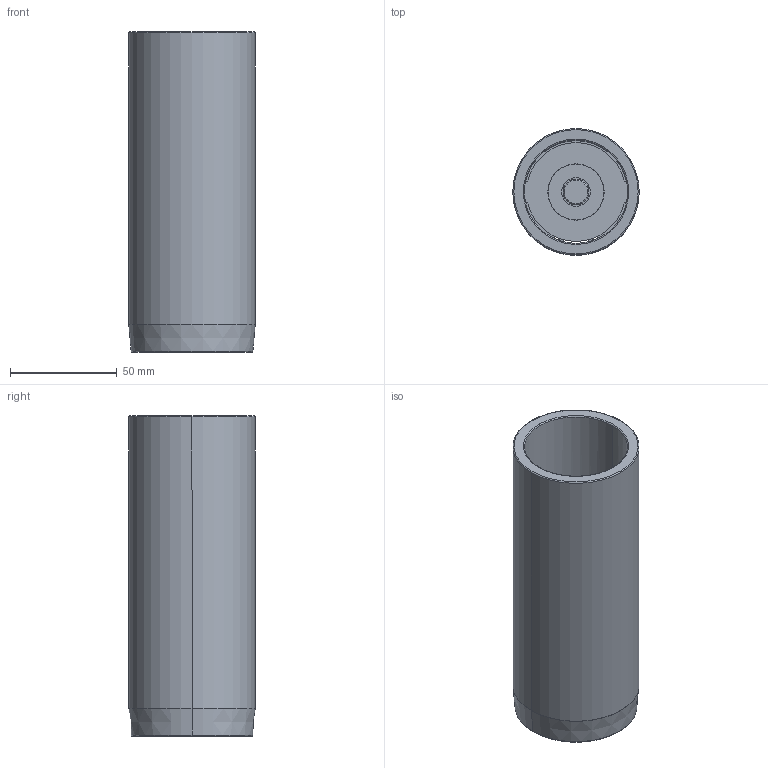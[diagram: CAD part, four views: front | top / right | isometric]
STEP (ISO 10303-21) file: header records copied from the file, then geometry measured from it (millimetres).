
FILE_DESCRIPTION((''),'2;1');
FILE_NAME('C12_048_150.stp','2009-01-28T14:14:15',(''),(''),'Mechanical Desktop 2009','Mechanical Desktop 2009',', , ');
FILE_SCHEMA(('CONFIG_CONTROL_DESIGN'));
Length unit declared in the file: millimetre
Products named in the file (2): Product; blmdl1
Assembly tree (1 placements, depth 2):
  Product
    blmdl1
Bounding box: 59.25 x 59.25 x 150 mm (x, y, z)
Volume: 143647.2 mm3; surface area: 61690.9 mm2
Topology: 5 solids, 5 shells, 79 faces, 200 edges, 134 vertices
Faces by surface type: cylinder 34, plane 29, torus 10, cone 6
Entity records: 2585 total; most frequent: DIRECTION 480, CARTESIAN_POINT 435, ORIENTED_EDGE 400, AXIS2_PLACEMENT_3D 203, EDGE_CURVE 200, VERTEX_POINT 134, CIRCLE 122, EDGE_LOOP 92
